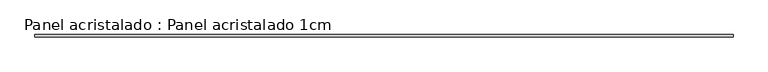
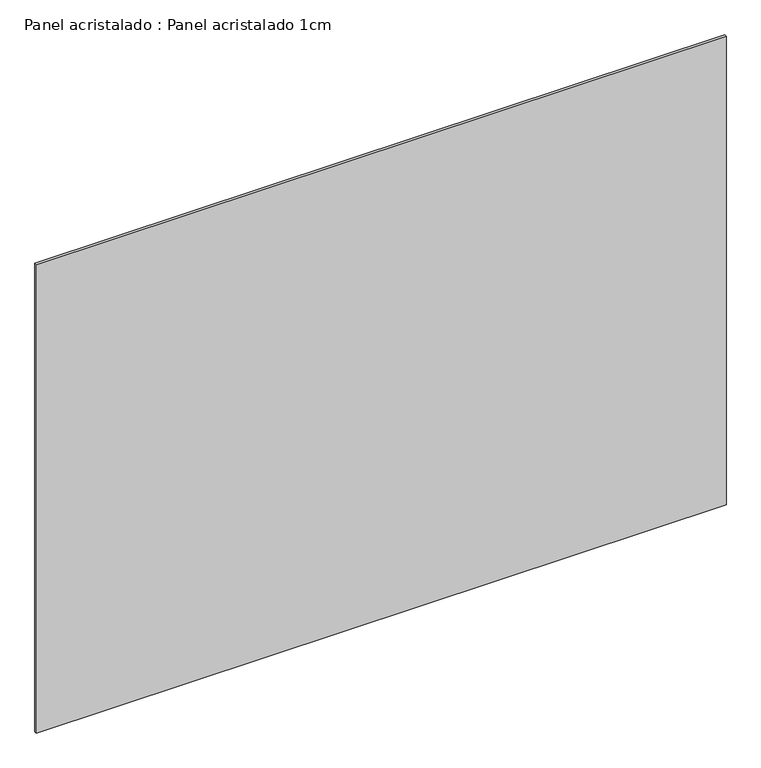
"""IFC4 building model written with IfcOpenShell, lengths in millimetres: plate geometry, Panel acristalado : Panel acristalado 1cm."""

from ifc_helpers import new_model, si_unit, origin, origin_with_axes, place, context, project, spatial, polyline, outline, extrude, source, transform, mapped, element, save


def panel_acristalado_panel_acristalado_1cm_1faddaff(model_context):
    return source(origin(), model_context, "Body", "SweptSolid", [
        extrude(outline(polyline([(1462.5, -20.0), (1462.5, -30.0), (-1462.5, -30.0), (-1462.5, -20.0), (1462.5, -20.0)])), origin_with_axes(), (0.0, 0.0, 1.0), 2100.0),
    ])


if __name__ == "__main__":
    model = new_model("IFC4")
    model_context = context("Model", 3, world=origin())
    ifc_project = project(units=[si_unit("LENGTHUNIT", "METRE", prefix="MILLI")], contexts=[model_context])
    site = spatial("IfcSite", under=ifc_project)
    building = spatial("IfcBuilding", under=site)
    placement = place(None, origin())
    panel_acristalado_panel_acristalado_1cm_shape = panel_acristalado_panel_acristalado_1cm_1faddaff(model_context)
    element("IfcPlate", 1, ObjectType="Panel acristalado : Panel acristalado 1cm", at=placement, inside=building, context=model_context, shape_type="MappedRepresentation", body=[
        mapped(panel_acristalado_panel_acristalado_1cm_shape, transform((0.0, 0.0, 0.0), x_axis=(1.0, 0.0, 0.0), y_axis=(0.0, 1.0, 0.0), z_axis=(0.0, 0.0, 1.0))),
    ])
    save(model, "model.ifc")
